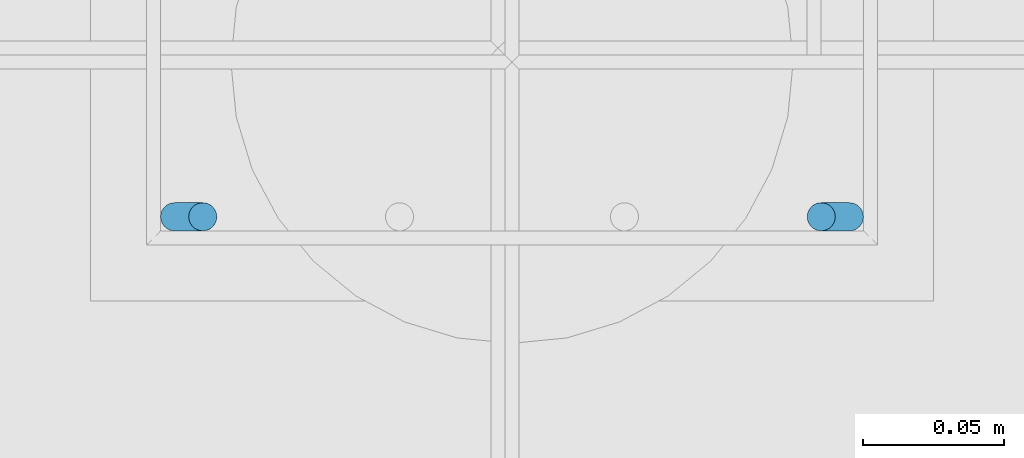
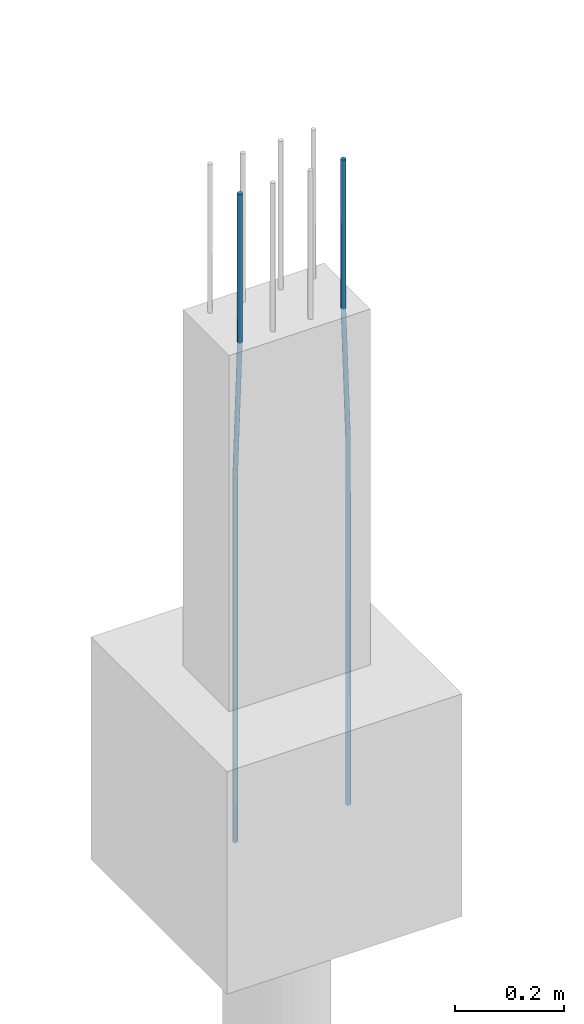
# One storey, part 54 of 119: 2 reinforcing bars.
"""IFC4 building model written with IfcOpenShell, lengths in centimetres."""

from ifc_helpers import new_model, entity, si_unit, derived_unit, frame, origin_with_axes, place, context, project, spatial, element, save


model = new_model("IFC4")

# Units and contexts
model_context = context("Model", 3, precision=1e-05, world=origin_with_axes(), identifier="Body")
ifc_project = project(units=[si_unit("LENGTHUNIT", "METRE", prefix="CENTI"), si_unit("VOLUMEUNIT", "CUBIC_METRE"), si_unit("AREAUNIT", "SQUARE_METRE"), si_unit("POWERUNIT", "WATT"), si_unit("LUMINOUSFLUXUNIT", "LUMEN"), si_unit("ELECTRICCURRENTUNIT", "AMPERE"), si_unit("PRESSUREUNIT", "PASCAL", prefix="KILO"), si_unit("MASSUNIT", "GRAM", prefix="KILO"), si_unit("PLANEANGLEUNIT", "RADIAN"), derived_unit("VOLUMETRICFLOWRATEUNIT", [(si_unit("LENGTHUNIT", "METRE"), 3), (si_unit("TIMEUNIT", "SECOND"), -1)])], contexts=[model_context])

# Site, building, storey
site_placement = place(None, frame((-4000.0, 0.0, 0.0), z_axis=(0.0, 0.0, 1.0), x_axis=(1.0, 0.0, 0.0)))
site = spatial("IfcSite", under=ifc_project, at=site_placement, Name="PADRÃO")
building_placement = place(site_placement, frame((0.0, 0.0, -14.0)))
building = spatial("IfcBuilding", under=site, at=building_placement, Name="CRECHE PRÉ-ESCOLA TIPO 2")
storey_placement = place(building_placement, origin_with_axes())
storey = spatial("IfcBuildingStorey", under=building, at=storey_placement, Name="FUNDAÇÃO", CompositionType="ELEMENT", Elevation=-14.0)

# Reinforcing bars
reinforcing_bar_1_placement = place(storey_placement, frame((2255.26, 3979.5, 33.3573001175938), z_axis=(0.0, 0.0, 1.0), x_axis=(1.0, 0.0, 0.0)))
element("IfcReinforcingBar", 1, at=reinforcing_bar_1_placement, inside=storey, Name="P26 - Longitudinal", BarLength=0.0, CrossSectionArea=7.853981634e-05, NominalDiameter=1.0, PredefinedType="MAIN", context=model_context, shape_type="AdvancedSweptSolid", body=[
    entity("IfcSweptDiskSolid", entity("IfcCompositeCurve", [entity("IfcCompositeCurveSegment", "CONTINUOUS", True, entity("IfcPolyline", [entity("IfcCartesianPoint", [-0.5, 0.0, -145.357300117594]), entity("IfcCartesianPoint", [-0.5, 0.0, -63.3573001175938])])), entity("IfcCompositeCurveSegment", "CONTINUOUS", True, entity("IfcPolyline", [entity("IfcCartesianPoint", [-0.5, 0.0, -63.3573001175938]), entity("IfcCartesianPoint", [0.5, 0.0, -33.3573001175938])])), entity("IfcCompositeCurveSegment", "CONTINUOUS", True, entity("IfcPolyline", [entity("IfcCartesianPoint", [0.5, 0.0, -33.3573001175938]), entity("IfcCartesianPoint", [0.5, 0.0, 0.0])]))], False), 0.5),
])
reinforcing_bar_2_placement = place(storey_placement, frame((2278.26, 3979.5, 33.3573001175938), z_axis=(0.0, 0.0, 1.0), x_axis=(1.0, 0.0, 0.0)))
element("IfcReinforcingBar", 2, at=reinforcing_bar_2_placement, inside=storey, Name="P26 - Longitudinal", BarLength=0.0, CrossSectionArea=7.853981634e-05, NominalDiameter=1.0, PredefinedType="MAIN", context=model_context, shape_type="AdvancedSweptSolid", body=[
    entity("IfcSweptDiskSolid", entity("IfcCompositeCurve", [entity("IfcCompositeCurveSegment", "CONTINUOUS", True, entity("IfcPolyline", [entity("IfcCartesianPoint", [0.5, 0.0, -145.357300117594]), entity("IfcCartesianPoint", [0.5, 0.0, -63.3573001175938])])), entity("IfcCompositeCurveSegment", "CONTINUOUS", True, entity("IfcPolyline", [entity("IfcCartesianPoint", [0.5, 0.0, -63.3573001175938]), entity("IfcCartesianPoint", [-0.5, 0.0, -33.3573001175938])])), entity("IfcCompositeCurveSegment", "CONTINUOUS", True, entity("IfcPolyline", [entity("IfcCartesianPoint", [-0.5, 0.0, -33.3573001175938]), entity("IfcCartesianPoint", [-0.5, 0.0, 0.0])]))], False), 0.5),
])

save(model, "model.ifc")
